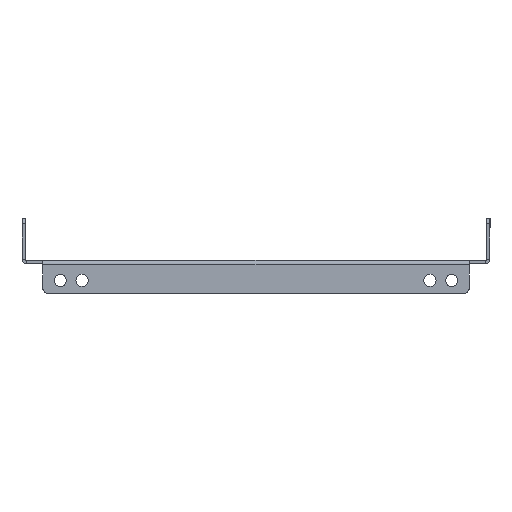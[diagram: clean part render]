
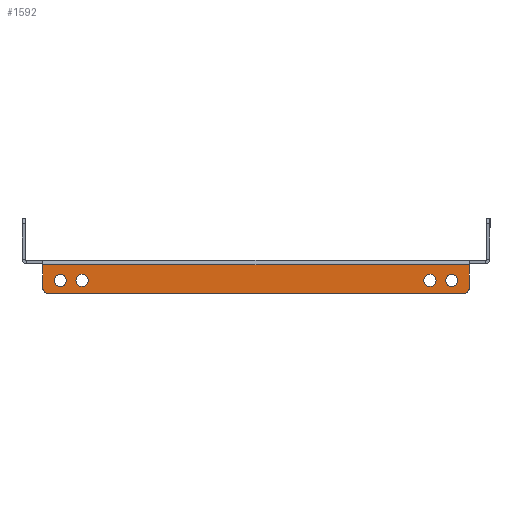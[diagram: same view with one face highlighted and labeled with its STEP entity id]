
A CAD part, left-side view. The second image highlights one B-rep face of the part: STEP entity #1592.
In plain terms, the highlighted planar face has unit normal (-1, 0, 0).
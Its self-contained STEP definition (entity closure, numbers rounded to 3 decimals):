
#19 = DIRECTION ( 'NONE',  ( -1., 0., 0. ) ) ;
#69 = FACE_BOUND ( 'NONE', #359, .T. ) ;
#79 = ORIENTED_EDGE ( 'NONE', *, *, #1481, .F. ) ;
#148 = DIRECTION ( 'NONE',  ( -1., 0., 0. ) ) ;
#157 = CARTESIAN_POINT ( 'NONE',  ( -150., 119.5, -14. ) ) ;
#306 = DIRECTION ( 'NONE',  ( -1., 0., 0. ) ) ;
#329 = DIRECTION ( 'NONE',  ( 0., 0., -1. ) ) ;
#339 = LINE ( 'NONE', #2652, #2861 ) ;
#352 = CARTESIAN_POINT ( 'NONE',  ( -150., 122.5, 0. ) ) ;
#359 = EDGE_LOOP ( 'NONE', ( #2322, #79 ) ) ;
#366 = CARTESIAN_POINT ( 'NONE',  ( -150., -112.5, -9.5 ) ) ;
#410 = EDGE_LOOP ( 'NONE', ( #554, #3212, #471, #2735, #2209, #1299 ) ) ;
#421 = DIRECTION ( 'NONE',  ( -1., 0., 0. ) ) ;
#449 = CARTESIAN_POINT ( 'NONE',  ( -150., 122.5, -0.6 ) ) ;
#460 = AXIS2_PLACEMENT_3D ( 'NONE', #3035, #3490, #1806 ) ;
#471 = ORIENTED_EDGE ( 'NONE', *, *, #2040, .F. ) ;
#481 = CIRCLE ( 'NONE', #2663, 3.5 ) ;
#521 = CARTESIAN_POINT ( 'NONE',  ( -150., 122.5, -17. ) ) ;
#532 = AXIS2_PLACEMENT_3D ( 'NONE', #2280, #306, #329 ) ;
#554 = ORIENTED_EDGE ( 'NONE', *, *, #2979, .F. ) ;
#676 = AXIS2_PLACEMENT_3D ( 'NONE', #157, #2213, #2194 ) ;
#697 = DIRECTION ( 'NONE',  ( 0., 0., 1. ) ) ;
#742 = LINE ( 'NONE', #2404, #1138 ) ;
#745 = CIRCLE ( 'NONE', #1452, 3.5 ) ;
#746 = CIRCLE ( 'NONE', #1808, 3.5 ) ;
#757 = EDGE_CURVE ( 'NONE', #1003, #3629, #742, .T. ) ;
#810 = VERTEX_POINT ( 'NONE', #2723 ) ;
#827 = CIRCLE ( 'NONE', #460, 3.5 ) ;
#869 = VERTEX_POINT ( 'NONE', #3190 ) ;
#958 = EDGE_CURVE ( 'NONE', #3466, #3767, #2409, .T. ) ;
#966 = AXIS2_PLACEMENT_3D ( 'NONE', #1446, #1425, #1382 ) ;
#969 = CIRCLE ( 'NONE', #532, 3.5 ) ;
#1003 = VERTEX_POINT ( 'NONE', #3348 ) ;
#1029 = CARTESIAN_POINT ( 'NONE',  ( -150., 100., -13. ) ) ;
#1038 = CARTESIAN_POINT ( 'NONE',  ( -150., 119.5, -17. ) ) ;
#1107 = AXIS2_PLACEMENT_3D ( 'NONE', #352, #421, #1711 ) ;
#1138 = VECTOR ( 'NONE', #1768, 1000. ) ;
#1177 = ORIENTED_EDGE ( 'NONE', *, *, #2081, .F. ) ;
#1197 = DIRECTION ( 'NONE',  ( -1., 0., 0. ) ) ;
#1207 = CARTESIAN_POINT ( 'NONE',  ( -150., -112.5, -6. ) ) ;
#1239 = CARTESIAN_POINT ( 'NONE',  ( -150., 112.5, -13. ) ) ;
#1248 = EDGE_CURVE ( 'NONE', #4245, #1436, #2227, .T. ) ;
#1285 = VERTEX_POINT ( 'NONE', #1239 ) ;
#1292 = EDGE_CURVE ( 'NONE', #3395, #1557, #746, .T. ) ;
#1299 = ORIENTED_EDGE ( 'NONE', *, *, #1387, .T. ) ;
#1382 = DIRECTION ( 'NONE',  ( 0., 0., 1. ) ) ;
#1387 = EDGE_CURVE ( 'NONE', #3537, #3074, #2709, .T. ) ;
#1398 = PLANE ( 'NONE',  #1107 ) ;
#1403 = EDGE_CURVE ( 'NONE', #869, #810, #3830, .T. ) ;
#1425 = DIRECTION ( 'NONE',  ( -1., 0., 0. ) ) ;
#1436 = VERTEX_POINT ( 'NONE', #3320 ) ;
#1440 = FACE_BOUND ( 'NONE', #3958, .T. ) ;
#1446 = CARTESIAN_POINT ( 'NONE',  ( -150., -119.5, -14. ) ) ;
#1452 = AXIS2_PLACEMENT_3D ( 'NONE', #2891, #3967, #3616 ) ;
#1461 = AXIS2_PLACEMENT_3D ( 'NONE', #1512, #3887, #3205 ) ;
#1481 = EDGE_CURVE ( 'NONE', #810, #869, #969, .T. ) ;
#1485 = CARTESIAN_POINT ( 'NONE',  ( -150., -119.5, -17. ) ) ;
#1494 = CARTESIAN_POINT ( 'NONE',  ( -150., -112.5, -9.5 ) ) ;
#1512 = CARTESIAN_POINT ( 'NONE',  ( -150., -100., -9.5 ) ) ;
#1548 = CARTESIAN_POINT ( 'NONE',  ( -150., 112.5, -6. ) ) ;
#1557 = VERTEX_POINT ( 'NONE', #3458 ) ;
#1580 = CARTESIAN_POINT ( 'NONE',  ( -150., 100., -9.5 ) ) ;
#1592 = ADVANCED_FACE ( 'NONE', ( #1440, #69, #2793, #2129, #3713 ), #1398, .T. ) ;
#1605 = DIRECTION ( 'NONE',  ( 0., 0., 1. ) ) ;
#1611 = CIRCLE ( 'NONE', #2858, 3.5 ) ;
#1641 = AXIS2_PLACEMENT_3D ( 'NONE', #1580, #2441, #1605 ) ;
#1711 = DIRECTION ( 'NONE',  ( 0., 0., 1. ) ) ;
#1758 = EDGE_LOOP ( 'NONE', ( #3237, #3306 ) ) ;
#1768 = DIRECTION ( 'NONE',  ( 0., 1., 0. ) ) ;
#1793 = VERTEX_POINT ( 'NONE', #1548 ) ;
#1806 = DIRECTION ( 'NONE',  ( 0., 0., 1. ) ) ;
#1808 = AXIS2_PLACEMENT_3D ( 'NONE', #1494, #1197, #2820 ) ;
#2031 = DIRECTION ( 'NONE',  ( 0., 0., -1. ) ) ;
#2040 = EDGE_CURVE ( 'NONE', #1003, #1436, #2100, .T. ) ;
#2081 = EDGE_CURVE ( 'NONE', #1793, #1285, #827, .T. ) ;
#2100 = LINE ( 'NONE', #2405, #2367 ) ;
#2129 = FACE_BOUND ( 'NONE', #2355, .T. ) ;
#2194 = DIRECTION ( 'NONE',  ( 0., 0., 1. ) ) ;
#2209 = ORIENTED_EDGE ( 'NONE', *, *, #3445, .F. ) ;
#2213 = DIRECTION ( 'NONE',  ( -1., 0., 0. ) ) ;
#2227 = CIRCLE ( 'NONE', #966, 3. ) ;
#2266 = EDGE_CURVE ( 'NONE', #3767, #3466, #745, .T. ) ;
#2280 = CARTESIAN_POINT ( 'NONE',  ( -150., -100., -9.5 ) ) ;
#2322 = ORIENTED_EDGE ( 'NONE', *, *, #1403, .F. ) ;
#2355 = EDGE_LOOP ( 'NONE', ( #1177, #3671 ) ) ;
#2367 = VECTOR ( 'NONE', #2031, 1000. ) ;
#2404 = CARTESIAN_POINT ( 'NONE',  ( -150., 122.5, -0.6 ) ) ;
#2405 = CARTESIAN_POINT ( 'NONE',  ( -150., -122.5, -17. ) ) ;
#2409 = CIRCLE ( 'NONE', #1641, 3.5 ) ;
#2441 = DIRECTION ( 'NONE',  ( -1., 0., 0. ) ) ;
#2467 = CARTESIAN_POINT ( 'NONE',  ( -150., 112.5, -9.5 ) ) ;
#2532 = LINE ( 'NONE', #521, #3904 ) ;
#2652 = CARTESIAN_POINT ( 'NONE',  ( -150., 122.5, 0. ) ) ;
#2663 = AXIS2_PLACEMENT_3D ( 'NONE', #2467, #148, #3795 ) ;
#2695 = DIRECTION ( 'NONE',  ( 0., 0., -1. ) ) ;
#2709 = CIRCLE ( 'NONE', #676, 3. ) ;
#2723 = CARTESIAN_POINT ( 'NONE',  ( -150., -100., -13. ) ) ;
#2735 = ORIENTED_EDGE ( 'NONE', *, *, #757, .T. ) ;
#2793 = FACE_BOUND ( 'NONE', #1758, .T. ) ;
#2804 = CARTESIAN_POINT ( 'NONE',  ( -150., 122.5, -14. ) ) ;
#2820 = DIRECTION ( 'NONE',  ( 0., 0., -1. ) ) ;
#2858 = AXIS2_PLACEMENT_3D ( 'NONE', #366, #19, #2695 ) ;
#2861 = VECTOR ( 'NONE', #697, 1000. ) ;
#2891 = CARTESIAN_POINT ( 'NONE',  ( -150., 100., -9.5 ) ) ;
#2909 = ORIENTED_EDGE ( 'NONE', *, *, #1292, .F. ) ;
#2979 = EDGE_CURVE ( 'NONE', #4245, #3074, #2532, .T. ) ;
#3035 = CARTESIAN_POINT ( 'NONE',  ( -150., 112.5, -9.5 ) ) ;
#3074 = VERTEX_POINT ( 'NONE', #1038 ) ;
#3107 = EDGE_CURVE ( 'NONE', #1557, #3395, #1611, .T. ) ;
#3190 = CARTESIAN_POINT ( 'NONE',  ( -150., -100., -6. ) ) ;
#3202 = DIRECTION ( 'NONE',  ( 0., 1., 0. ) ) ;
#3205 = DIRECTION ( 'NONE',  ( 0., 0., -1. ) ) ;
#3212 = ORIENTED_EDGE ( 'NONE', *, *, #1248, .T. ) ;
#3237 = ORIENTED_EDGE ( 'NONE', *, *, #958, .F. ) ;
#3287 = CARTESIAN_POINT ( 'NONE',  ( -150., 100., -6. ) ) ;
#3306 = ORIENTED_EDGE ( 'NONE', *, *, #2266, .F. ) ;
#3320 = CARTESIAN_POINT ( 'NONE',  ( -150., -122.5, -14. ) ) ;
#3348 = CARTESIAN_POINT ( 'NONE',  ( -150., -122.5, -0.6 ) ) ;
#3395 = VERTEX_POINT ( 'NONE', #1207 ) ;
#3445 = EDGE_CURVE ( 'NONE', #3537, #3629, #339, .T. ) ;
#3458 = CARTESIAN_POINT ( 'NONE',  ( -150., -112.5, -13. ) ) ;
#3466 = VERTEX_POINT ( 'NONE', #3287 ) ;
#3490 = DIRECTION ( 'NONE',  ( -1., 0., 0. ) ) ;
#3537 = VERTEX_POINT ( 'NONE', #2804 ) ;
#3616 = DIRECTION ( 'NONE',  ( 0., 0., 1. ) ) ;
#3629 = VERTEX_POINT ( 'NONE', #449 ) ;
#3671 = ORIENTED_EDGE ( 'NONE', *, *, #4306, .F. ) ;
#3713 = FACE_OUTER_BOUND ( 'NONE', #410, .T. ) ;
#3767 = VERTEX_POINT ( 'NONE', #1029 ) ;
#3795 = DIRECTION ( 'NONE',  ( 0., 0., 1. ) ) ;
#3830 = CIRCLE ( 'NONE', #1461, 3.5 ) ;
#3887 = DIRECTION ( 'NONE',  ( -1., 0., 0. ) ) ;
#3904 = VECTOR ( 'NONE', #3202, 1000. ) ;
#3958 = EDGE_LOOP ( 'NONE', ( #2909, #4225 ) ) ;
#3967 = DIRECTION ( 'NONE',  ( -1., 0., 0. ) ) ;
#4225 = ORIENTED_EDGE ( 'NONE', *, *, #3107, .F. ) ;
#4245 = VERTEX_POINT ( 'NONE', #1485 ) ;
#4306 = EDGE_CURVE ( 'NONE', #1285, #1793, #481, .T. ) ;
